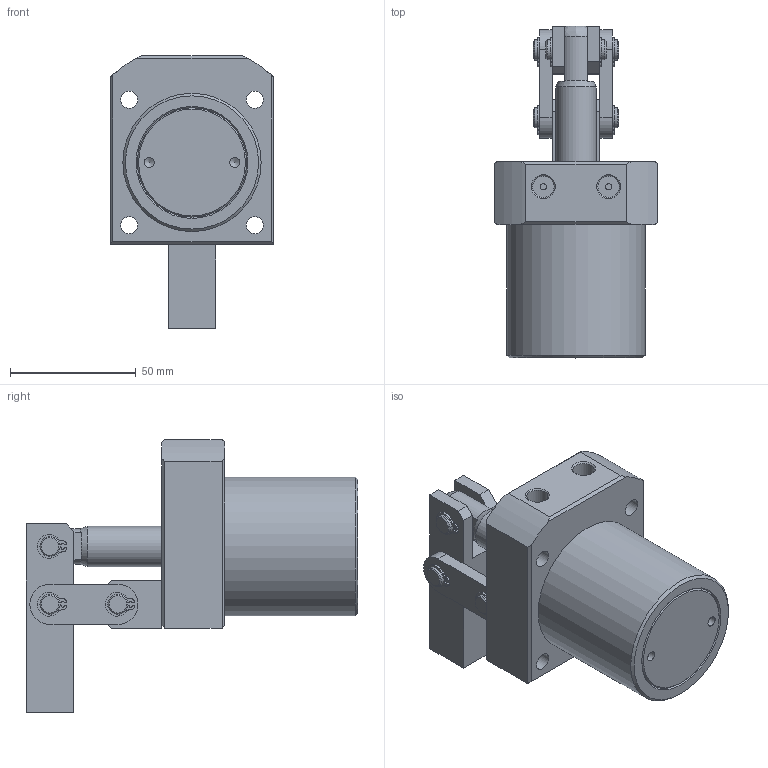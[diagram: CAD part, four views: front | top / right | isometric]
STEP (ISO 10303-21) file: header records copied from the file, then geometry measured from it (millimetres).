
FILE_DESCRIPTION(/* description */ (''),/* implementation_level */ '2;1');
FILE_NAME(/* name */ 'KGG-SG40.stp',/* time_stamp */ '2016-07-19T14:30:22+08:00',/* author */ (''),/* organization */ (''),/* preprocessor_version */ 'ST-DEVELOPER v14',/* originating_system */ 'SIEMENS PLM Software NX 8.0',/* authorisation */ '');
FILE_SCHEMA (('CONFIG_CONTROL_DESIGN'));
Length unit declared in the file: millimetre
Products named in the file (1): KGG-SG40_stp
Bounding box: 65 x 132 x 108.5 mm (x, y, z)
Volume: 285993.9 mm3; surface area: 44938.1 mm2
Topology: 14 solids, 14 shells, 219 faces, 515 edges, 338 vertices
Faces by surface type: plane 120, cylinder 80, cone 18, bspline 1
Full cylindrical faces by diameter (mm): 2.5 x2, 4 x2, 6.8 x4, 8 x6, 8.5 x2, 11 x4, 16 x2, 19.4 x1, 55 x1
Entity records: 6099 total; most frequent: DIRECTION 1086, CARTESIAN_POINT 1061, ORIENTED_EDGE 918, EDGE_CURVE 459, AXIS2_PLACEMENT_3D 414, VERTEX_POINT 325, EDGE_LOOP 284, LINE 258
